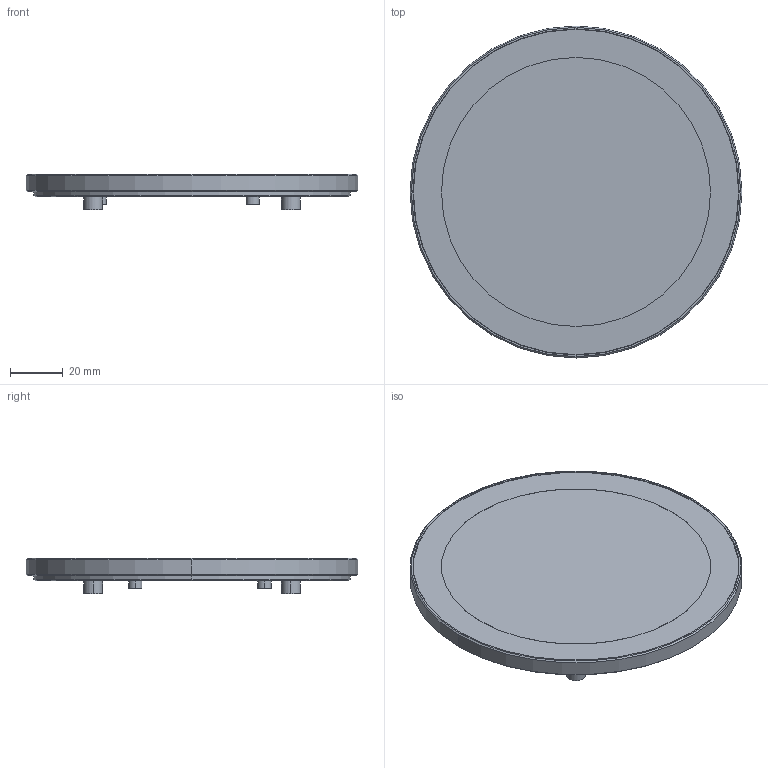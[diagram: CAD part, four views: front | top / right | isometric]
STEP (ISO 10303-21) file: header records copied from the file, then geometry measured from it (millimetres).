
FILE_DESCRIPTION((''),'2;1');
FILE_NAME('4-DSI-TOUCH-C_WAIXING','2026-02-10T11:04:26',('ag'),(''),'CREO PARAMETRIC BY PTC INC, 2021063','CREO PARAMETRIC BY PTC INC, 2021063','');
FILE_SCHEMA(('CONFIG_CONTROL_DESIGN','SHAPE_APPEARANCE_LAYERS_GROUPS'));
Length unit declared in the file: millimetre
Products named in the file (1): 4-DSI-TOUCH-C_WAIXING
Bounding box: 126 x 126 x 13.3 mm (x, y, z)
Volume: 91605.2 mm3; surface area: 56137 mm2
Topology: 1 solids, 1 shells, 739 faces, 2035 edges, 1314 vertices
Faces by surface type: plane 579, cylinder 143, sphere 8, cone 7, extrusion 2
Entity records: 28673 total; most frequent: CARTESIAN_POINT 4434, ORIENTED_EDGE 4070, DIRECTION 3727, EDGE_CURVE 2035, VECTOR 1645, LINE 1643, VERTEX_POINT 1314, AXIS2_PLACEMENT_3D 1041
